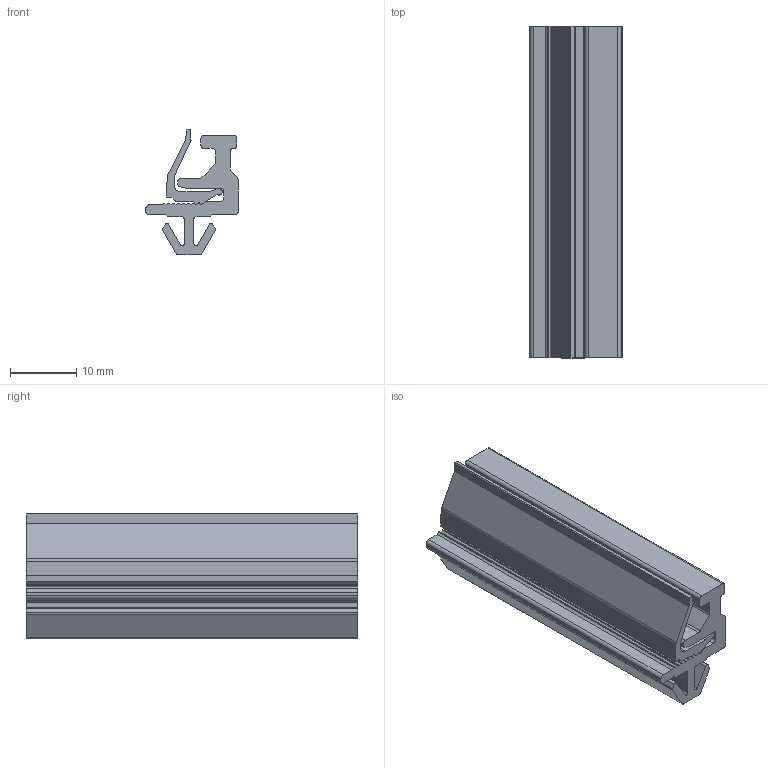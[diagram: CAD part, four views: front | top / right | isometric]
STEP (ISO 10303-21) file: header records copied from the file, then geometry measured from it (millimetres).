
FILE_DESCRIPTION(('STEP AP214'),'1');
FILE_NAME('RM25-.stp','2017-07-28T00:34:21',(' '),(' '),'Spatial InterOp 3D',' ',' ');
FILE_SCHEMA(('automotive_design'));
Length unit declared in the file: millimetre
Products named in the file (1): RM25-
Bounding box: 13.9 x 50 x 18.89 mm (x, y, z)
Volume: 5456.5 mm3; surface area: 7025.7 mm2
Topology: 1 solids, 1 shells, 126 faces, 372 edges, 248 vertices
Faces by surface type: plane 69, cylinder 57
Entity records: 5258 total; most frequent: CARTESIAN_POINT 747, ORIENTED_EDGE 744, DIRECTION 740, EDGE_CURVE 372, LINE 258, VECTOR 258, VERTEX_POINT 248, AXIS2_PLACEMENT_3D 241
